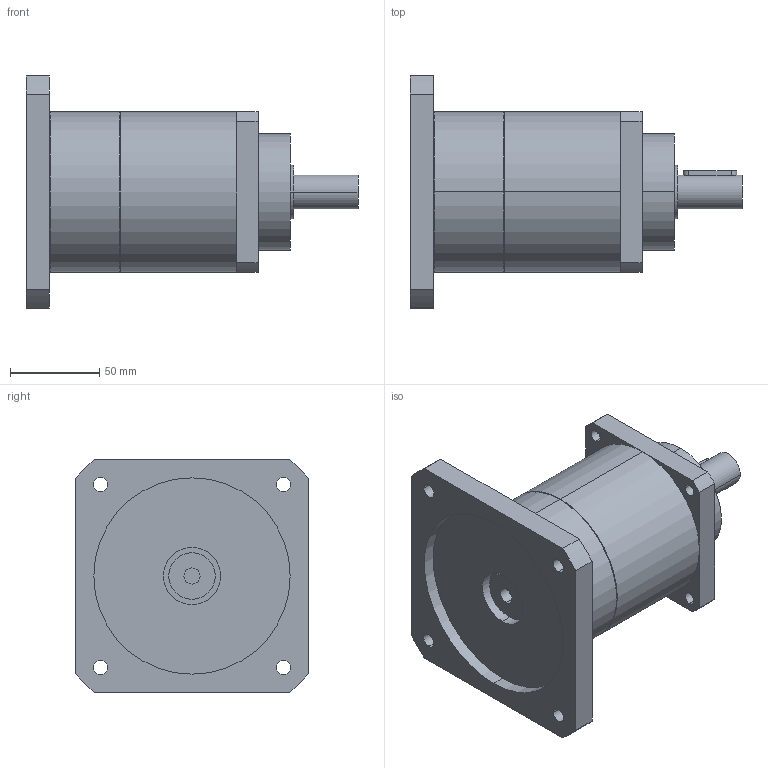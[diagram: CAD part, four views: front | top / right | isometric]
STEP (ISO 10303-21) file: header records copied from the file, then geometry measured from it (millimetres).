
FILE_DESCRIPTION(('CoCreate Modeling STEP Export'),'2;1');
FILE_NAME('GPT90_ig-9-12-16-20-25-28-35-40-50-70-100_19_B5T_9_P33.stp','2015-02-04T11:34:02',(''),(''),'CoCreate Modeling STEP processor for AP214 (Solid Model)','CoCreate Modeling 16.00C 25-Feb-2009 (C) Parametric Technology GmbH','');
FILE_SCHEMA(('AUTOMOTIVE_DESIGN { 1 0 10303 214 1 1 1 1 }'));
Length unit declared in the file: millimetre
Products named in the file (2): GPT90_ig-9-12-16-20-25-28-35-40-50-70-100_19_B5T_9_P33
Assembly tree (1 placements, depth 2):
  GPT90_ig-9-12-16-20-25-28-35-40-50-70-100_19_B5T_9_P33
    GPT90_ig-9-12-16-20-25-28-35-40-50-70-100_19_B5T_9_P33
Bounding box: 186 x 130 x 130 mm (x, y, z)
Volume: 976507.6 mm3; surface area: 89894.1 mm2
Topology: 1 solids, 1 shells, 77 faces, 206 edges, 141 vertices
Faces by surface type: cylinder 46, plane 27, cone 4
Entity records: 2596 total; most frequent: CARTESIAN_POINT 742, ORIENTED_EDGE 412, DIRECTION 324, EDGE_CURVE 206, VERTEX_POINT 141, AXIS2_PLACEMENT_3D 120, EDGE_LOOP 103, VECTOR 84
